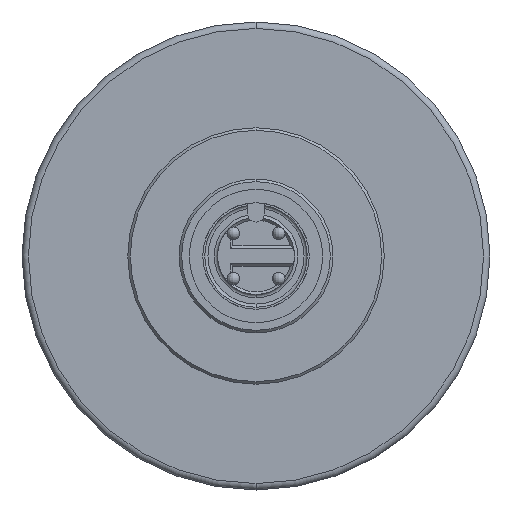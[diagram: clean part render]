
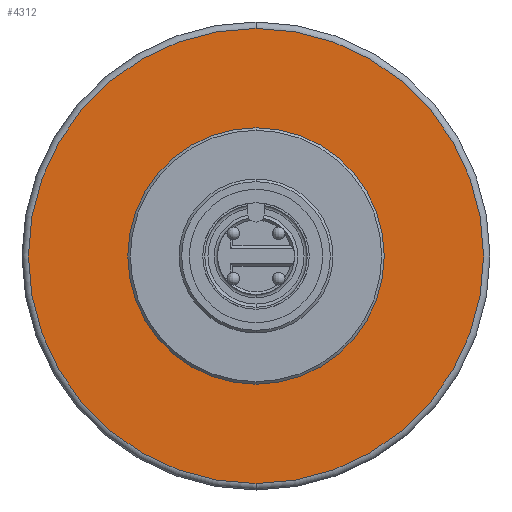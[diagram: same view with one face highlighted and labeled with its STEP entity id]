
A CAD part, left-side view. The second image highlights one B-rep face of the part: STEP entity #4312.
In plain terms, the highlighted planar face has unit normal (-1, 0, 0).
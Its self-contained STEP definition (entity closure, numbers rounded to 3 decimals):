
#348 = CARTESIAN_POINT ( 'NONE',  ( -60.025, 5.759, 0. ) ) ;
#352 = DIRECTION ( 'NONE',  ( -1., 0., 0. ) ) ;
#353 = DIRECTION ( 'NONE',  ( 0., 0., -1. ) ) ;
#593 = CARTESIAN_POINT ( 'NONE',  ( -60.025, 5.759, 0. ) ) ;
#594 = DIRECTION ( 'NONE',  ( -1., 0., 0. ) ) ;
#595 = DIRECTION ( 'NONE',  ( 0., 0., 1. ) ) ;
#642 = PLANE ( 'NONE',  #1941 ) ;
#643 = CARTESIAN_POINT ( 'NONE',  ( -60.025, 15.759, 0. ) ) ;
#644 = DIRECTION ( 'NONE',  ( 1., 0., 0. ) ) ;
#645 = DIRECTION ( 'NONE',  ( 0., 0., -1. ) ) ;
#827 = CARTESIAN_POINT ( 'NONE',  ( -60.025, 5.759, 0. ) ) ;
#828 = DIRECTION ( 'NONE',  ( -1., 0., 0. ) ) ;
#829 = DIRECTION ( 'NONE',  ( 0., 0., -1. ) ) ;
#930 = CARTESIAN_POINT ( 'NONE',  ( -60.025, 5.759, 0. ) ) ;
#931 = DIRECTION ( 'NONE',  ( -1., 0., 0. ) ) ;
#932 = DIRECTION ( 'NONE',  ( 0., 0., 1. ) ) ;
#1706 = CIRCLE ( 'NONE', #1733, 10. ) ;
#1733 = AXIS2_PLACEMENT_3D ( 'NONE', #930, #931, #932 ) ;
#1922 = AXIS2_PLACEMENT_3D ( 'NONE', #593, #594, #595 ) ;
#1933 = FACE_OUTER_BOUND ( 'NONE', #3375, .T. ) ;
#1937 = FACE_BOUND ( 'NONE', #3371, .T. ) ;
#1941 = AXIS2_PLACEMENT_3D ( 'NONE', #643, #644, #645 ) ;
#2009 = AXIS2_PLACEMENT_3D ( 'NONE', #827, #828, #829 ) ;
#2174 = AXIS2_PLACEMENT_3D ( 'NONE', #348, #352, #353 ) ;
#2627 = CIRCLE ( 'NONE', #2009, 17.75 ) ;
#2669 = CIRCLE ( 'NONE', #2174, 17.75 ) ;
#2687 = CIRCLE ( 'NONE', #1922, 10. ) ;
#2769 = ORIENTED_EDGE ( 'NONE', *, *, #4447, .T. ) ;
#2805 = ORIENTED_EDGE ( 'NONE', *, *, #4343, .T. ) ;
#2916 = ORIENTED_EDGE ( 'NONE', *, *, #4302, .F. ) ;
#2923 = ORIENTED_EDGE ( 'NONE', *, *, #4215, .F. ) ;
#3371 = EDGE_LOOP ( 'NONE', ( #2923, #2916 ) ) ;
#3375 = EDGE_LOOP ( 'NONE', ( #2805, #2769 ) ) ;
#3959 = CARTESIAN_POINT ( 'NONE',  ( -60.025, 5.759, -10. ) ) ;
#3960 = CARTESIAN_POINT ( 'NONE',  ( -60.025, 5.759, 17.75 ) ) ;
#3962 = CARTESIAN_POINT ( 'NONE',  ( -60.025, 5.759, -17.75 ) ) ;
#4087 = CARTESIAN_POINT ( 'NONE',  ( -60.025, 5.759, 10. ) ) ;
#4215 = EDGE_CURVE ( 'NONE', #5301, #5051, #1706, .T. ) ;
#4302 = EDGE_CURVE ( 'NONE', #5051, #5301, #2687, .T. ) ;
#4312 = ADVANCED_FACE ( 'NONE', ( #1933, #1937 ), #642, .F. ) ;
#4343 = EDGE_CURVE ( 'NONE', #5054, #5052, #2627, .T. ) ;
#4447 = EDGE_CURVE ( 'NONE', #5052, #5054, #2669, .T. ) ;
#5051 = VERTEX_POINT ( 'NONE', #3959 ) ;
#5052 = VERTEX_POINT ( 'NONE', #3960 ) ;
#5054 = VERTEX_POINT ( 'NONE', #3962 ) ;
#5301 = VERTEX_POINT ( 'NONE', #4087 ) ;
